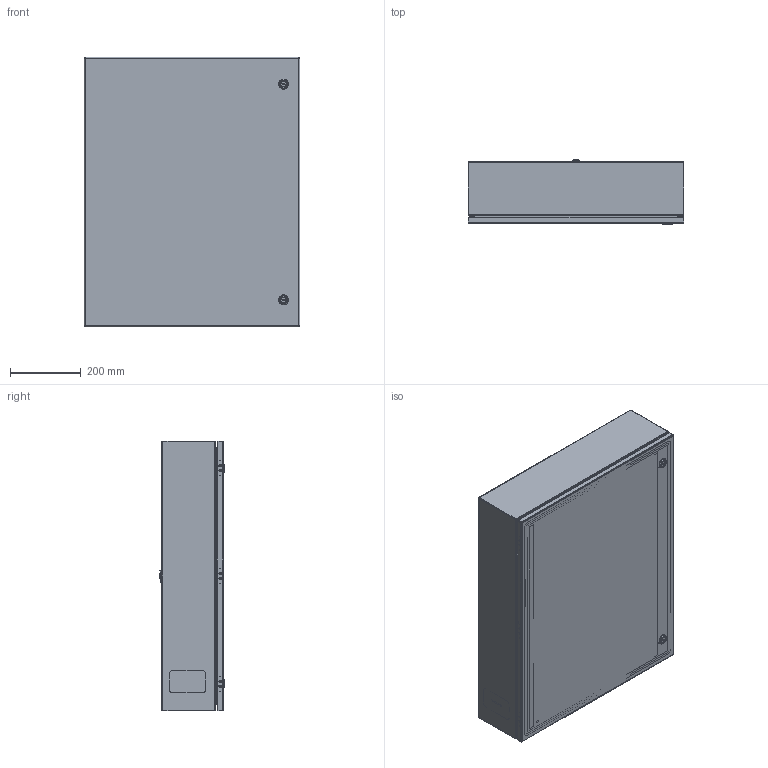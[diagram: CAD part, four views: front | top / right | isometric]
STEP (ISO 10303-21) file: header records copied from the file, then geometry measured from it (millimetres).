
FILE_DESCRIPTION(/* description */ ('Unknown'),/* implementation_level */ '2;1');
FILE_NAME(/* name */ 'EN4SD30246GY',/* time_stamp */ '2023-02-27T12:01:36-05:00',/* author */ ('Unknown'),/* organization */ ('Unknown'),/* preprocessor_version */ 'ST-DEVELOPER v18.102',/* originating_system */ 'Solid Edge',/* authorisation */ 'Unknown');
FILE_SCHEMA (('AUTOMOTIVE_DESIGN {1 0 10303 214 3 1 1}'));
Length unit declared in the file: millimetre
Products named in the file (28): EN4SD30246GY; HNG14573-1; PIN17645; CAP02342; COM55769-6; std26098; QLB20183; STD21878; COM52808; PCOM53844; HNG14573-2; PNT11078; COM70219_oa_0; LOK10000; LOK10000_CAM; LOK10000_SCREW; LOK10000_NUT; KIT90669; NTS18006; BUL10136; WAM30022; SCC181205; NTS166105; NTS165305; NTS16535; BUL10020
Assembly tree (42 placements, depth 3):
  EN4SD30246GY
    HNG14573-1  x3
    PIN17645  x3
    CAP02342  x3
    COM55769-6
    std26098  x4
    QLB20183
    STD21878
    COM52808
      PCOM53844  x2
      HNG14573-2  x3
      STD21878
      COM52808
      PNT11078
      COM70219_oa_0
    LOK10000  x2
      LOK10000
      LOK10000_CAM
      LOK10000_SCREW
      LOK10000_NUT
    KIT90669
      NTS18006
      BUL10136
      WAM30022
      SCC181205
      NTS166105
      NTS165305
      NTS16535
      BUL10020
    PNT11078
Bounding box: 609.6 x 185.92 x 762 mm (x, y, z)
Volume: 2959092.2 mm3; surface area: 3277608.6 mm2
Topology: 38 solids, 39 shells, 1033 faces, 2480 edges, 1576 vertices
Faces by surface type: plane 542, cylinder 237, bspline 165, torus 55, cone 34
Full cylindrical faces by diameter (mm): 4.369 x3, 4.976 x1, 5.74 x3, 5.893 x4, 6.096 x3, 6.35 x3, 6.411 x1, 6.858 x4, 7.137 x2, 7.417 x3, 7.805 x1, 7.938 x4, 9.144 x2, 10.109 x9, 11.557 x6, 12.7 x4, 13.335 x2, 14.732 x1, 15.875 x6, 19.939 x4, 22.225 x1, 27.94 x2
Entity records: 23914 total; most frequent: CARTESIAN_POINT 6989, ORIENTED_EDGE 3498, DIRECTION 2937, EDGE_CURVE 1749, VERTEX_POINT 1136, LINE 1057, VECTOR 1057, AXIS2_PLACEMENT_3D 940
